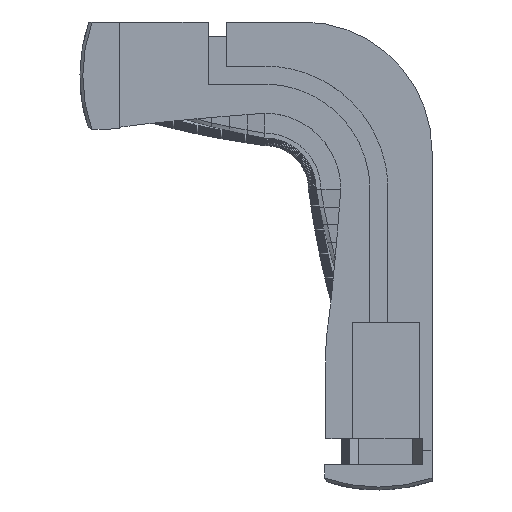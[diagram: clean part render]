
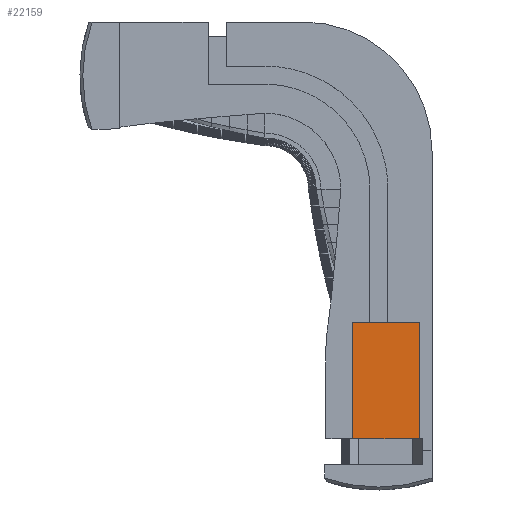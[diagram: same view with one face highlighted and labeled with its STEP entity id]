
A CAD part, top view. The second image highlights one B-rep face of the part: STEP entity #22159.
In plain terms, the highlighted planar face has unit normal (0, 0, 1).
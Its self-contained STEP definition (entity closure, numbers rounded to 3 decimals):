
#3523 = PLANE('',#3524);
#3524 = AXIS2_PLACEMENT_3D('',#3525,#3526,#3527);
#3525 = CARTESIAN_POINT('',(165.,91.5,6.2));
#3526 = DIRECTION('',(-0.,1.,0.));
#3527 = DIRECTION('',(0.,0.,1.));
#3549 = PLANE('',#3550);
#3550 = AXIS2_PLACEMENT_3D('',#3551,#3552,#3553);
#3551 = CARTESIAN_POINT('',(178.514,91.,8.9));
#3552 = DIRECTION('',(1.,0.,-0.));
#3553 = DIRECTION('',(0.,0.,1.));
#3575 = PLANE('',#3576);
#3576 = AXIS2_PLACEMENT_3D('',#3577,#3578,#3579);
#3577 = CARTESIAN_POINT('',(178.514,116.,8.9));
#3578 = DIRECTION('',(-0.,1.,0.));
#3579 = DIRECTION('',(0.,0.,1.));
#11592 = VERTEX_POINT('',#11593);
#11593 = CARTESIAN_POINT('',(192.514,116.,8.9));
#11609 = PLANE('',#11610);
#11610 = AXIS2_PLACEMENT_3D('',#11611,#11612,#11613);
#11611 = CARTESIAN_POINT('',(192.514,91.,8.9));
#11612 = DIRECTION('',(1.,0.,-0.));
#11613 = DIRECTION('',(0.,0.,1.));
#11621 = EDGE_CURVE('',#11622,#11592,#11624,.T.);
#11622 = VERTEX_POINT('',#11623);
#11623 = CARTESIAN_POINT('',(178.514,116.,8.9));
#11624 = SURFACE_CURVE('',#11625,(#11629,#11636),.PCURVE_S1.);
#11625 = LINE('',#11626,#11627);
#11626 = CARTESIAN_POINT('',(178.514,116.,8.9));
#11627 = VECTOR('',#11628,1.);
#11628 = DIRECTION('',(1.,0.,-0.));
#11629 = PCURVE('',#3575,#11630);
#11630 = DEFINITIONAL_REPRESENTATION('',(#11631),#11635);
#11631 = LINE('',#11632,#11633);
#11632 = CARTESIAN_POINT('',(0.,0.));
#11633 = VECTOR('',#11634,1.);
#11634 = DIRECTION('',(0.,1.));
#11635 = ( GEOMETRIC_REPRESENTATION_CONTEXT(2) 
PARAMETRIC_REPRESENTATION_CONTEXT() REPRESENTATION_CONTEXT('2D SPACE',''
  ) );
#11636 = PCURVE('',#11637,#11642);
#11637 = PLANE('',#11638);
#11638 = AXIS2_PLACEMENT_3D('',#11639,#11640,#11641);
#11639 = CARTESIAN_POINT('',(178.514,91.,8.9));
#11640 = DIRECTION('',(0.,0.,1.));
#11641 = DIRECTION('',(1.,0.,-0.));
#11642 = DEFINITIONAL_REPRESENTATION('',(#11643),#11647);
#11643 = LINE('',#11644,#11645);
#11644 = CARTESIAN_POINT('',(0.,25.));
#11645 = VECTOR('',#11646,1.);
#11646 = DIRECTION('',(1.,0.));
#11647 = ( GEOMETRIC_REPRESENTATION_CONTEXT(2) 
PARAMETRIC_REPRESENTATION_CONTEXT() REPRESENTATION_CONTEXT('2D SPACE',''
  ) );
#11753 = PLANE('',#11754);
#11754 = AXIS2_PLACEMENT_3D('',#11755,#11756,#11757);
#11755 = CARTESIAN_POINT('',(188.021,111.4,-0.607));
#11756 = DIRECTION('',(-0.707,0.,-0.707));
#11757 = DIRECTION('',(-0.707,0.,0.707));
#11765 = VERTEX_POINT('',#11766);
#11766 = CARTESIAN_POINT('',(178.514,110.404,8.9));
#11778 = B_SPLINE_SURFACE_WITH_KNOTS('',1,1,(
    (#11779,#11780)
    ,(#11781,#11782
    )),.UNSPECIFIED.,.F.,.F.,.F.,(2,2),(2,2),(0.,32.),(0.,1.),
  .PIECEWISE_BEZIER_KNOTS.);
#11779 = CARTESIAN_POINT('',(188.021,110.4,-0.607));
#11780 = CARTESIAN_POINT('',(187.449,114.133,
    -1.221));
#11781 = CARTESIAN_POINT('',(165.393,110.4,22.021));
#11782 = CARTESIAN_POINT('',(166.037,114.133,
    22.559));
#11789 = EDGE_CURVE('',#11765,#11622,#11790,.T.);
#11790 = SURFACE_CURVE('',#11791,(#11795,#11802),.PCURVE_S1.);
#11791 = LINE('',#11792,#11793);
#11792 = CARTESIAN_POINT('',(178.514,91.,8.9));
#11793 = VECTOR('',#11794,1.);
#11794 = DIRECTION('',(-0.,1.,0.));
#11795 = PCURVE('',#3549,#11796);
#11796 = DEFINITIONAL_REPRESENTATION('',(#11797),#11801);
#11797 = LINE('',#11798,#11799);
#11798 = CARTESIAN_POINT('',(0.,0.));
#11799 = VECTOR('',#11800,1.);
#11800 = DIRECTION('',(0.,-1.));
#11801 = ( GEOMETRIC_REPRESENTATION_CONTEXT(2) 
PARAMETRIC_REPRESENTATION_CONTEXT() REPRESENTATION_CONTEXT('2D SPACE',''
  ) );
#11802 = PCURVE('',#11637,#11803);
#11803 = DEFINITIONAL_REPRESENTATION('',(#11804),#11808);
#11804 = LINE('',#11805,#11806);
#11805 = CARTESIAN_POINT('',(0.,0.));
#11806 = VECTOR('',#11807,1.);
#11807 = DIRECTION('',(0.,1.));
#11808 = ( GEOMETRIC_REPRESENTATION_CONTEXT(2) 
PARAMETRIC_REPRESENTATION_CONTEXT() REPRESENTATION_CONTEXT('2D SPACE',''
  ) );
#11892 = VERTEX_POINT('',#11893);
#11893 = CARTESIAN_POINT('',(178.514,91.5,8.9));
#11912 = EDGE_CURVE('',#11892,#11913,#11915,.T.);
#11913 = VERTEX_POINT('',#11914);
#11914 = CARTESIAN_POINT('',(192.514,91.5,8.9));
#11915 = SURFACE_CURVE('',#11916,(#11920,#11926),.PCURVE_S1.);
#11916 = LINE('',#11917,#11918);
#11917 = CARTESIAN_POINT('',(171.757,91.5,8.9));
#11918 = VECTOR('',#11919,1.);
#11919 = DIRECTION('',(1.,0.,-0.));
#11920 = PCURVE('',#3523,#11921);
#11921 = DEFINITIONAL_REPRESENTATION('',(#11922),#11925);
#11922 = B_SPLINE_CURVE_WITH_KNOTS('',1,(#11923,#11924),.UNSPECIFIED.,
  .F.,.F.,(2,2),(6.757,20.757),.PIECEWISE_BEZIER_KNOTS.);
#11923 = CARTESIAN_POINT('',(2.7,13.514));
#11924 = CARTESIAN_POINT('',(2.7,27.514));
#11925 = ( GEOMETRIC_REPRESENTATION_CONTEXT(2) 
PARAMETRIC_REPRESENTATION_CONTEXT() REPRESENTATION_CONTEXT('2D SPACE',''
  ) );
#11926 = PCURVE('',#11637,#11927);
#11927 = DEFINITIONAL_REPRESENTATION('',(#11928),#11931);
#11928 = B_SPLINE_CURVE_WITH_KNOTS('',1,(#11929,#11930),.UNSPECIFIED.,
  .F.,.F.,(2,2),(6.757,20.757),.PIECEWISE_BEZIER_KNOTS.);
#11929 = CARTESIAN_POINT('',(0.,0.5));
#11930 = CARTESIAN_POINT('',(14.,0.5));
#11931 = ( GEOMETRIC_REPRESENTATION_CONTEXT(2) 
PARAMETRIC_REPRESENTATION_CONTEXT() REPRESENTATION_CONTEXT('2D SPACE',''
  ) );
#22138 = EDGE_CURVE('',#11913,#11592,#22139,.T.);
#22139 = SURFACE_CURVE('',#22140,(#22144,#22151),.PCURVE_S1.);
#22140 = LINE('',#22141,#22142);
#22141 = CARTESIAN_POINT('',(192.514,91.,8.9));
#22142 = VECTOR('',#22143,1.);
#22143 = DIRECTION('',(-0.,1.,0.));
#22144 = PCURVE('',#11609,#22145);
#22145 = DEFINITIONAL_REPRESENTATION('',(#22146),#22150);
#22146 = LINE('',#22147,#22148);
#22147 = CARTESIAN_POINT('',(0.,0.));
#22148 = VECTOR('',#22149,1.);
#22149 = DIRECTION('',(0.,-1.));
#22150 = ( GEOMETRIC_REPRESENTATION_CONTEXT(2) 
PARAMETRIC_REPRESENTATION_CONTEXT() REPRESENTATION_CONTEXT('2D SPACE',''
  ) );
#22151 = PCURVE('',#11637,#22152);
#22152 = DEFINITIONAL_REPRESENTATION('',(#22153),#22157);
#22153 = LINE('',#22154,#22155);
#22154 = CARTESIAN_POINT('',(14.,0.));
#22155 = VECTOR('',#22156,1.);
#22156 = DIRECTION('',(0.,1.));
#22157 = ( GEOMETRIC_REPRESENTATION_CONTEXT(2) 
PARAMETRIC_REPRESENTATION_CONTEXT() REPRESENTATION_CONTEXT('2D SPACE',''
  ) );
#22159 = ADVANCED_FACE('',(#22160),#11637,.T.);
#22160 = FACE_BOUND('',#22161,.T.);
#22161 = EDGE_LOOP('',(#22162,#22163,#22183,#22202,#22203,#22204));
#22162 = ORIENTED_EDGE('',*,*,#11789,.F.);
#22163 = ORIENTED_EDGE('',*,*,#22164,.F.);
#22164 = EDGE_CURVE('',#22165,#11765,#22167,.T.);
#22165 = VERTEX_POINT('',#22166);
#22166 = CARTESIAN_POINT('',(178.514,110.4,8.9));
#22167 = SURFACE_CURVE('',#22168,(#22171,#22177),.PCURVE_S1.);
#22168 = B_SPLINE_CURVE_WITH_KNOTS('',1,(#22169,#22170),.UNSPECIFIED.,
  .F.,.F.,(2,2),(0.,1.),.PIECEWISE_BEZIER_KNOTS.);
#22169 = CARTESIAN_POINT('',(178.514,110.4,8.9));
#22170 = CARTESIAN_POINT('',(178.514,110.407,8.9));
#22171 = PCURVE('',#11637,#22172);
#22172 = DEFINITIONAL_REPRESENTATION('',(#22173),#22176);
#22173 = B_SPLINE_CURVE_WITH_KNOTS('',1,(#22174,#22175),.UNSPECIFIED.,
  .F.,.F.,(2,2),(0.,1.),.PIECEWISE_BEZIER_KNOTS.);
#22174 = CARTESIAN_POINT('',(0.,19.4));
#22175 = CARTESIAN_POINT('',(0.,19.407));
#22176 = ( GEOMETRIC_REPRESENTATION_CONTEXT(2) 
PARAMETRIC_REPRESENTATION_CONTEXT() REPRESENTATION_CONTEXT('2D SPACE',''
  ) );
#22177 = PCURVE('',#11778,#22178);
#22178 = DEFINITIONAL_REPRESENTATION('',(#22179),#22182);
#22179 = B_SPLINE_CURVE_WITH_KNOTS('',1,(#22180,#22181),.UNSPECIFIED.,
  .F.,.F.,(2,2),(0.,1.),.PIECEWISE_BEZIER_KNOTS.);
#22180 = CARTESIAN_POINT('',(13.444,0.));
#22181 = CARTESIAN_POINT('',(13.445,0.002));
#22182 = ( GEOMETRIC_REPRESENTATION_CONTEXT(2) 
PARAMETRIC_REPRESENTATION_CONTEXT() REPRESENTATION_CONTEXT('2D SPACE',''
  ) );
#22183 = ORIENTED_EDGE('',*,*,#22184,.T.);
#22184 = EDGE_CURVE('',#22165,#11892,#22185,.T.);
#22185 = SURFACE_CURVE('',#22186,(#22190,#22196),.PCURVE_S1.);
#22186 = LINE('',#22187,#22188);
#22187 = CARTESIAN_POINT('',(178.514,101.2,8.9));
#22188 = VECTOR('',#22189,1.);
#22189 = DIRECTION('',(-0.,-1.,0.));
#22190 = PCURVE('',#11637,#22191);
#22191 = DEFINITIONAL_REPRESENTATION('',(#22192),#22195);
#22192 = B_SPLINE_CURVE_WITH_KNOTS('',1,(#22193,#22194),.UNSPECIFIED.,
  .F.,.F.,(2,2),(-9.2,10.2),.PIECEWISE_BEZIER_KNOTS.);
#22193 = CARTESIAN_POINT('',(0.,19.4));
#22194 = CARTESIAN_POINT('',(0.,0.));
#22195 = ( GEOMETRIC_REPRESENTATION_CONTEXT(2) 
PARAMETRIC_REPRESENTATION_CONTEXT() REPRESENTATION_CONTEXT('2D SPACE',''
  ) );
#22196 = PCURVE('',#11753,#22197);
#22197 = DEFINITIONAL_REPRESENTATION('',(#22198),#22201);
#22198 = B_SPLINE_CURVE_WITH_KNOTS('',1,(#22199,#22200),.UNSPECIFIED.,
  .F.,.F.,(2,2),(-9.2,10.2),.PIECEWISE_BEZIER_KNOTS.);
#22199 = CARTESIAN_POINT('',(13.444,-1.));
#22200 = CARTESIAN_POINT('',(13.444,-20.4));
#22201 = ( GEOMETRIC_REPRESENTATION_CONTEXT(2) 
PARAMETRIC_REPRESENTATION_CONTEXT() REPRESENTATION_CONTEXT('2D SPACE',''
  ) );
#22202 = ORIENTED_EDGE('',*,*,#11912,.T.);
#22203 = ORIENTED_EDGE('',*,*,#22138,.T.);
#22204 = ORIENTED_EDGE('',*,*,#11621,.F.);
